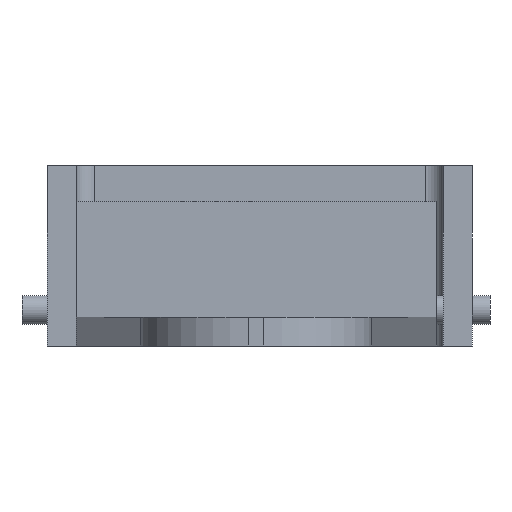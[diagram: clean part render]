
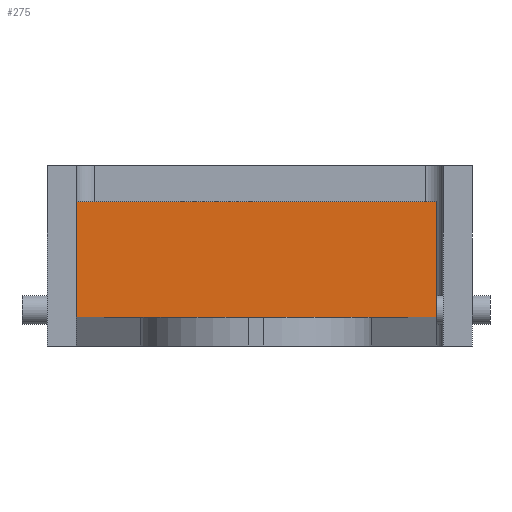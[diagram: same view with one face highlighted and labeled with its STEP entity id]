
A CAD part, left-side view. The second image highlights one B-rep face of the part: STEP entity #275.
In plain terms, the highlighted planar face has unit normal (-1, 0, 0) as drawn and (1, 0, 0) by its records, which use the part's own axes.
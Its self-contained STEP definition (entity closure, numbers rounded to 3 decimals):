
#27 = DIRECTION ( 'NONE',  ( 0., -1., 0. ) ) ;
#74 = FACE_OUTER_BOUND ( 'NONE', #537, .T. ) ;
#75 = CARTESIAN_POINT ( 'NONE',  ( 0., 50., 0. ) ) ;
#181 = VERTEX_POINT ( 'NONE', #574 ) ;
#227 = DIRECTION ( 'NONE',  ( 0., -1., 0. ) ) ;
#232 = EDGE_CURVE ( 'NONE', #1659, #1987, #234, .T. ) ;
#234 = LINE ( 'NONE', #784, #1529 ) ;
#250 = CARTESIAN_POINT ( 'NONE',  ( 0., -50., 8. ) ) ;
#275 = ADVANCED_FACE ( 'NONE', ( #74 ), #1721, .F. ) ;
#394 = ORIENTED_EDGE ( 'NONE', *, *, #600, .T. ) ;
#464 = DIRECTION ( 'NONE',  ( -1., 0., 0. ) ) ;
#528 = VECTOR ( 'NONE', #227, 1000. ) ;
#537 = EDGE_LOOP ( 'NONE', ( #603, #1838, #394, #890 ) ) ;
#574 = CARTESIAN_POINT ( 'NONE',  ( 0., 50., 40. ) ) ;
#600 = EDGE_CURVE ( 'NONE', #181, #1659, #1192, .T. ) ;
#603 = ORIENTED_EDGE ( 'NONE', *, *, #2005, .F. ) ;
#634 = DIRECTION ( 'NONE',  ( 0., 0., -1. ) ) ;
#644 = CARTESIAN_POINT ( 'NONE',  ( 0., 50., 8. ) ) ;
#733 = CARTESIAN_POINT ( 'NONE',  ( 0., 50., 8. ) ) ;
#784 = CARTESIAN_POINT ( 'NONE',  ( 0., -50., 0. ) ) ;
#820 = CARTESIAN_POINT ( 'NONE',  ( 0., -50., 40. ) ) ;
#838 = LINE ( 'NONE', #733, #2054 ) ;
#890 = ORIENTED_EDGE ( 'NONE', *, *, #232, .T. ) ;
#927 = VECTOR ( 'NONE', #2001, 1000. ) ;
#952 = CARTESIAN_POINT ( 'NONE',  ( 0., 50., 0. ) ) ;
#996 = VERTEX_POINT ( 'NONE', #644 ) ;
#1192 = LINE ( 'NONE', #1952, #528 ) ;
#1247 = DIRECTION ( 'NONE',  ( 0., 0., 1. ) ) ;
#1449 = EDGE_CURVE ( 'NONE', #181, #996, #1751, .T. ) ;
#1529 = VECTOR ( 'NONE', #634, 1000. ) ;
#1642 = AXIS2_PLACEMENT_3D ( 'NONE', #952, #464, #1247 ) ;
#1659 = VERTEX_POINT ( 'NONE', #820 ) ;
#1721 = PLANE ( 'NONE',  #1642 ) ;
#1751 = LINE ( 'NONE', #75, #927 ) ;
#1838 = ORIENTED_EDGE ( 'NONE', *, *, #1449, .F. ) ;
#1952 = CARTESIAN_POINT ( 'NONE',  ( 0., 50., 40. ) ) ;
#1987 = VERTEX_POINT ( 'NONE', #250 ) ;
#2001 = DIRECTION ( 'NONE',  ( 0., 0., -1. ) ) ;
#2005 = EDGE_CURVE ( 'NONE', #996, #1987, #838, .T. ) ;
#2054 = VECTOR ( 'NONE', #27, 1000. ) ;
